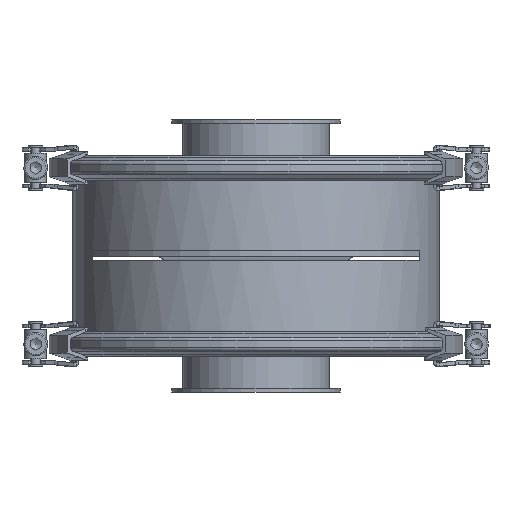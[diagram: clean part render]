
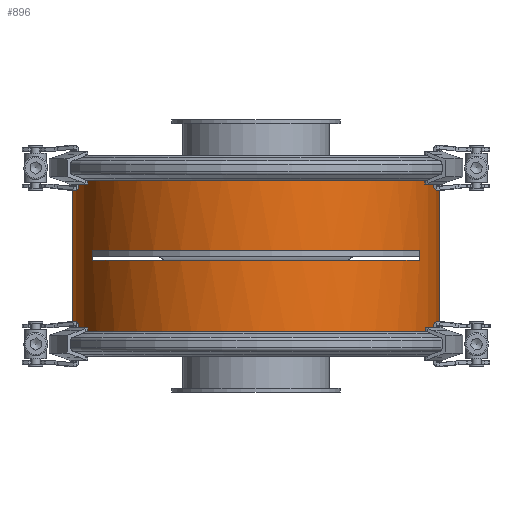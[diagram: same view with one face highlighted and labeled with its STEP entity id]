
A CAD part, left-side view. The second image highlights one B-rep face of the part: STEP entity #896.
In plain terms, the highlighted cylindrical face has radius 101 mm (diameter 202 mm), a full revolution.
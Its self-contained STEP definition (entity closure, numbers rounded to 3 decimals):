
#112=CARTESIAN_POINT('',(-45.837,90.,-2.224));
#113=VERTEX_POINT('',#112);
#114=CARTESIAN_POINT('',(-45.837,90.,2.776));
#115=VERTEX_POINT('',#114);
#116=CARTESIAN_POINT('',(-45.837,90.,-2.224));
#117=DIRECTION('',(0.0,0.0,1.0));
#118=VECTOR('',#117,5.);
#119=LINE('',#116,#118);
#120=EDGE_CURVE('',#113,#115,#119,.T.);
#152=CARTESIAN_POINT('',(45.837,90.,2.776));
#153=VERTEX_POINT('',#152);
#154=CARTESIAN_POINT('',(45.837,90.,-2.224));
#155=VERTEX_POINT('',#154);
#156=CARTESIAN_POINT('',(45.837,90.,2.776));
#157=DIRECTION('',(0.0,0.0,-1.0));
#158=VECTOR('',#157,5.);
#159=LINE('',#156,#158);
#160=EDGE_CURVE('',#153,#155,#159,.T.);
#192=CARTESIAN_POINT('',(-45.837,-90.,2.776));
#193=VERTEX_POINT('',#192);
#194=CARTESIAN_POINT('',(-45.837,-90.,-2.224));
#195=VERTEX_POINT('',#194);
#196=CARTESIAN_POINT('',(-45.837,-90.,2.776));
#197=DIRECTION('',(0.0,0.0,-1.0));
#198=VECTOR('',#197,5.);
#199=LINE('',#196,#198);
#200=EDGE_CURVE('',#193,#195,#199,.T.);
#260=CARTESIAN_POINT('',(0.0,0.0,-2.224));
#261=DIRECTION('',(0.0,0.0,-1.0));
#262=DIRECTION('',(-1.0,0.0,0.0));
#263=AXIS2_PLACEMENT_3D('',#260,#261,#262);
#264=CIRCLE('',#263,101.);
#265=EDGE_CURVE('',#195,#113,#264,.T.);
#284=CARTESIAN_POINT('',(45.837,-90.,-2.224));
#285=VERTEX_POINT('',#284);
#286=CARTESIAN_POINT('',(0.0,0.0,-2.224));
#287=DIRECTION('',(0.0,0.0,-1.0));
#288=DIRECTION('',(-1.0,0.0,0.0));
#289=AXIS2_PLACEMENT_3D('',#286,#287,#288);
#290=CIRCLE('',#289,101.);
#291=EDGE_CURVE('',#155,#285,#290,.T.);
#317=CARTESIAN_POINT('',(0.0,0.0,2.776));
#318=DIRECTION('',(0.0,0.0,1.0));
#319=DIRECTION('',(-1.0,0.0,0.0));
#320=AXIS2_PLACEMENT_3D('',#317,#318,#319);
#321=CIRCLE('',#320,101.);
#322=EDGE_CURVE('',#115,#193,#321,.T.);
#369=CARTESIAN_POINT('',(45.837,-90.,2.776));
#370=VERTEX_POINT('',#369);
#371=CARTESIAN_POINT('',(45.837,-90.,-2.224));
#372=DIRECTION('',(0.0,0.0,1.0));
#373=VECTOR('',#372,5.);
#374=LINE('',#371,#373);
#375=EDGE_CURVE('',#285,#370,#374,.T.);
#400=CARTESIAN_POINT('',(0.0,0.0,2.776));
#401=DIRECTION('',(0.0,0.0,1.0));
#402=DIRECTION('',(-1.0,0.0,0.0));
#403=AXIS2_PLACEMENT_3D('',#400,#401,#402);
#404=CIRCLE('',#403,101.);
#405=EDGE_CURVE('',#370,#153,#404,.T.);
#696=CARTESIAN_POINT('',(101.,0.,-49.5));
#697=VERTEX_POINT('',#696);
#698=CARTESIAN_POINT('',(0.0,0.0,-49.5));
#699=DIRECTION('',(0.0,0.0,1.0));
#700=DIRECTION('',(-1.0,0.0,0.0));
#701=AXIS2_PLACEMENT_3D('',#698,#699,#700);
#702=CIRCLE('',#701,101.);
#703=EDGE_CURVE('',#697,#697,#702,.T.);
#765=CARTESIAN_POINT('',(101.,0.,49.5));
#766=VERTEX_POINT('',#765);
#767=CARTESIAN_POINT('',(0.0,0.0,49.5));
#768=DIRECTION('',(0.0,0.0,-1.0));
#769=DIRECTION('',(-1.0,0.0,0.0));
#770=AXIS2_PLACEMENT_3D('',#767,#768,#769);
#771=CIRCLE('',#770,101.);
#772=EDGE_CURVE('',#766,#766,#771,.T.);
#873=CARTESIAN_POINT('',(0.0,0.0,0.0));
#874=DIRECTION('',(0.0,0.0,1.0));
#875=DIRECTION('',(-1.0,0.0,0.0));
#876=AXIS2_PLACEMENT_3D('',#873,#874,#875);
#877=CYLINDRICAL_SURFACE('',#876,101.);
#878=ORIENTED_EDGE('',*,*,#703,.T.);
#879=EDGE_LOOP('',(#878));
#880=FACE_OUTER_BOUND('',#879,.T.);
#881=ORIENTED_EDGE('',*,*,#375,.T.);
#882=ORIENTED_EDGE('',*,*,#405,.T.);
#883=ORIENTED_EDGE('',*,*,#160,.T.);
#884=ORIENTED_EDGE('',*,*,#291,.T.);
#885=EDGE_LOOP('',(#881,#882,#883,#884));
#886=FACE_BOUND('',#885,.T.);
#887=ORIENTED_EDGE('',*,*,#200,.T.);
#888=ORIENTED_EDGE('',*,*,#265,.T.);
#889=ORIENTED_EDGE('',*,*,#120,.T.);
#890=ORIENTED_EDGE('',*,*,#322,.T.);
#891=EDGE_LOOP('',(#887,#888,#889,#890));
#892=FACE_BOUND('',#891,.T.);
#893=ORIENTED_EDGE('',*,*,#772,.T.);
#894=EDGE_LOOP('',(#893));
#895=FACE_BOUND('',#894,.T.);
#896=ADVANCED_FACE('',(#880,#886,#892,#895),#877,.T.);
